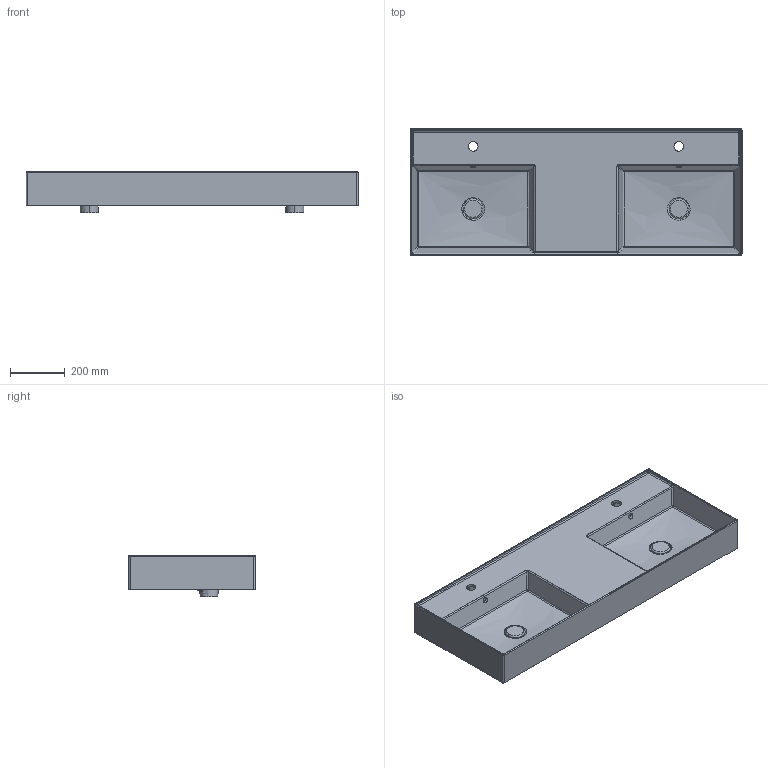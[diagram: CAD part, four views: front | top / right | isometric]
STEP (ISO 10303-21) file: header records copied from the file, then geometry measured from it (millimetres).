
FILE_DESCRIPTION(/* description */ (''),/* implementation_level */ '2;1');
FILE_NAME(/* name */ 'TWENTY 121 DOUBLE BOWL',/* time_stamp */ '2025-04-10T16:02:24+02:00',/* author */ (''),/* organization */ (''),/* preprocessor_version */ 'ST-DEVELOPER v19.2',/* originating_system */ 'Rhino 8.18',/* authorisation */ '');
FILE_SCHEMA (('CONFIG_CONTROL_DESIGN'));
Length unit declared in the file: millimetre
Products named in the file (1): Document
Bounding box: 1210 x 460 x 150 mm (x, y, z)
Volume: 38359.8 mm3; surface area: 2144184.8 mm2
Topology: 2 solids, 324 shells, 331 faces, 1316 edges, 1295 vertices
Faces by surface type: bspline 163, cylinder 109, plane 59
Entity records: 45684 total; most frequent: CARTESIAN_POINT 36422, ORIENTED_EDGE 1317, EDGE_CURVE 1303, VERTEX_POINT 1298, DIRECTION 1170, AXIS2_PLACEMENT_3D 669, B_SPLINE_CURVE_WITH_KNOTS 568, CIRCLE 498
